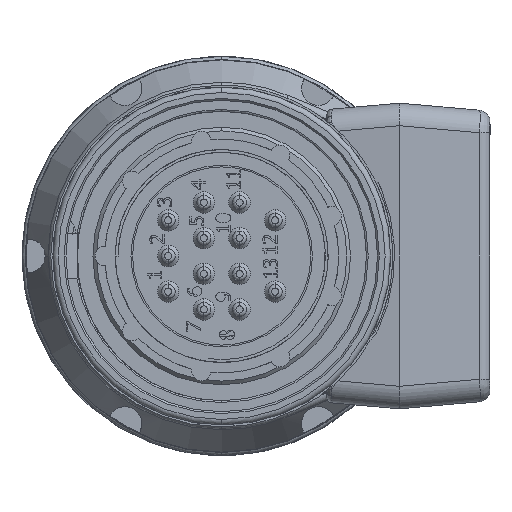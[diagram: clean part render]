
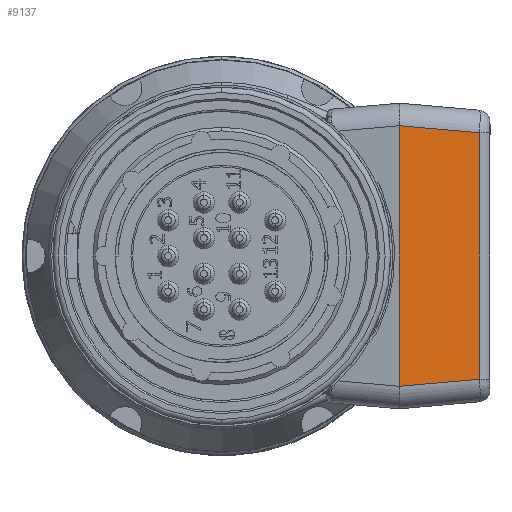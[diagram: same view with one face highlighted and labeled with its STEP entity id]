
A CAD part, left-side view. The second image highlights one B-rep face of the part: STEP entity #9137.
In plain terms, the highlighted planar face has unit normal (-0.996, -0.087, 0).
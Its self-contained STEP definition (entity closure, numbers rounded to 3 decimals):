
#1524 = CARTESIAN_POINT ( 'NONE',  ( -65.161, -24.925, -18.268 ) ) ;
#2596 = FACE_OUTER_BOUND ( 'NONE', #24843, .T. ) ;
#3444 = LINE ( 'NONE', #33348, #20156 ) ;
#6380 = ORIENTED_EDGE ( 'NONE', *, *, #12824, .F. ) ;
#7868 = EDGE_CURVE ( 'NONE', #18868, #52951, #49727, .T. ) ;
#8218 = VECTOR ( 'NONE', #24019, 1000. ) ;
#9137 = ADVANCED_FACE ( 'NONE', ( #2596 ), #11157, .T. ) ;
#10888 = DIRECTION ( 'NONE',  ( -0.087, 0.996, 0. ) ) ;
#11157 = PLANE ( 'NONE',  #18274 ) ;
#11757 = VERTEX_POINT ( 'NONE', #1524 ) ;
#12417 = ORIENTED_EDGE ( 'NONE', *, *, #37694, .T. ) ;
#12765 = EDGE_CURVE ( 'NONE', #11757, #18868, #44613, .T. ) ;
#12824 = EDGE_CURVE ( 'NONE', #11757, #29700, #3444, .T. ) ;
#16539 = DIRECTION ( 'NONE',  ( 0., 0., 1. ) ) ;
#16572 = DIRECTION ( 'NONE',  ( 0., 0., 1. ) ) ;
#18274 = AXIS2_PLACEMENT_3D ( 'NONE', #43511, #18912, #10888 ) ;
#18868 = VERTEX_POINT ( 'NONE', #26838 ) ;
#18912 = DIRECTION ( 'NONE',  ( -0.996, -0.087, 0. ) ) ;
#20003 = CARTESIAN_POINT ( 'NONE',  ( -64.074, -37.353, -17.181 ) ) ;
#20156 = VECTOR ( 'NONE', #16539, 1000. ) ;
#20562 = CARTESIAN_POINT ( 'NONE',  ( -64.177, -36.176, -20.32 ) ) ;
#22733 = CARTESIAN_POINT ( 'NONE',  ( -65.161, -24.925, 18.268 ) ) ;
#23078 = ORIENTED_EDGE ( 'NONE', *, *, #12765, .T. ) ;
#24019 = DIRECTION ( 'NONE',  ( 0.087, -0.992, 0.087 ) ) ;
#24843 = EDGE_LOOP ( 'NONE', ( #23078, #40941, #12417, #6380 ) ) ;
#26838 = CARTESIAN_POINT ( 'NONE',  ( -64.177, -36.176, -17.284 ) ) ;
#26848 = VECTOR ( 'NONE', #43923, 1000. ) ;
#27596 = CARTESIAN_POINT ( 'NONE',  ( -63.767, -40.855, 16.875 ) ) ;
#29700 = VERTEX_POINT ( 'NONE', #22733 ) ;
#33117 = VECTOR ( 'NONE', #16572, 1000. ) ;
#33348 = CARTESIAN_POINT ( 'NONE',  ( -65.161, -24.925, -20.32 ) ) ;
#37694 = EDGE_CURVE ( 'NONE', #52951, #29700, #39634, .T. ) ;
#39634 = LINE ( 'NONE', #27596, #26848 ) ;
#39792 = CARTESIAN_POINT ( 'NONE',  ( -64.177, -36.176, 17.284 ) ) ;
#40941 = ORIENTED_EDGE ( 'NONE', *, *, #7868, .T. ) ;
#43511 = CARTESIAN_POINT ( 'NONE',  ( -64.05, -37.625, -20.32 ) ) ;
#43923 = DIRECTION ( 'NONE',  ( -0.087, 0.992, 0.087 ) ) ;
#44613 = LINE ( 'NONE', #20003, #8218 ) ;
#49727 = LINE ( 'NONE', #20562, #33117 ) ;
#52951 = VERTEX_POINT ( 'NONE', #39792 ) ;
